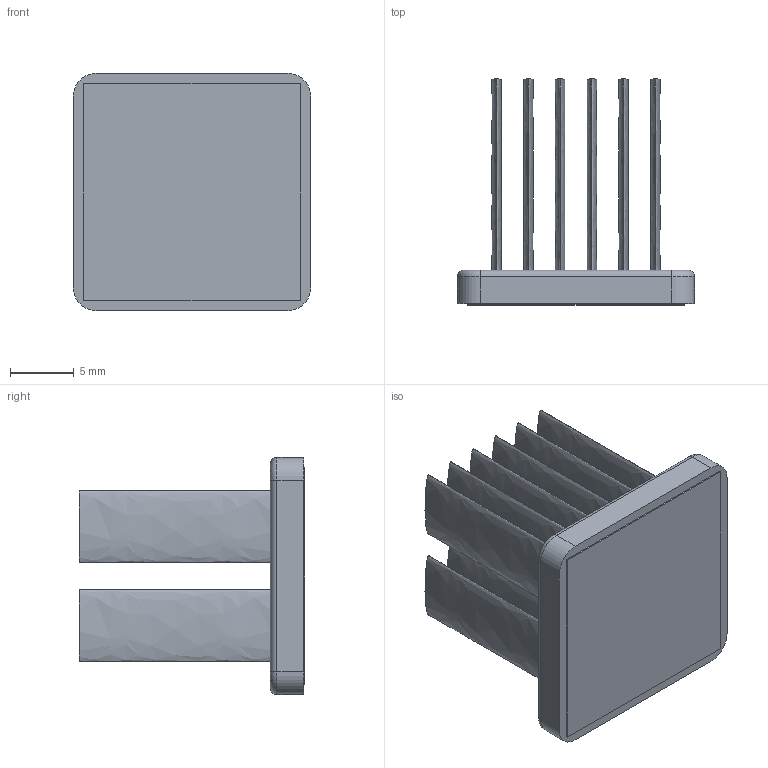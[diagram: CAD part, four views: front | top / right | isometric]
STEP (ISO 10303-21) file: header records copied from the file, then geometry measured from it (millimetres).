
FILE_DESCRIPTION (( 'STEP AP214' ), '1' );
FILE_NAME ('INM19001-18W-2.6.STEP', '2023-03-02T18:17:19', ( '' ), ( '' ), 'SwSTEP 2.0', 'SolidWorks 2020', '' );
FILE_SCHEMA (( 'AUTOMOTIVE_DESIGN' ));
Length unit declared in the file: millimetre
Products named in the file (1): INM19001-18W-2.6
Bounding box: 18.6 x 17.7 x 18.6 mm (x, y, z)
Volume: 1524.9 mm3; surface area: 3524.9 mm2
Topology: 2 solids, 2 shells, 60 faces, 124 edges, 80 vertices
Faces by surface type: bspline 24, plane 24, cylinder 8, torus 4
Entity records: 2339 total; most frequent: CARTESIAN_POINT 577, ORIENTED_EDGE 248, DIRECTION 170, EDGE_CURVE 124, VERTEX_POINT 80, EDGE_LOOP 72, UNCERTAINTY_MEASURE_WITH_UNIT 64, SURFACE_STYLE_USAGE 63
